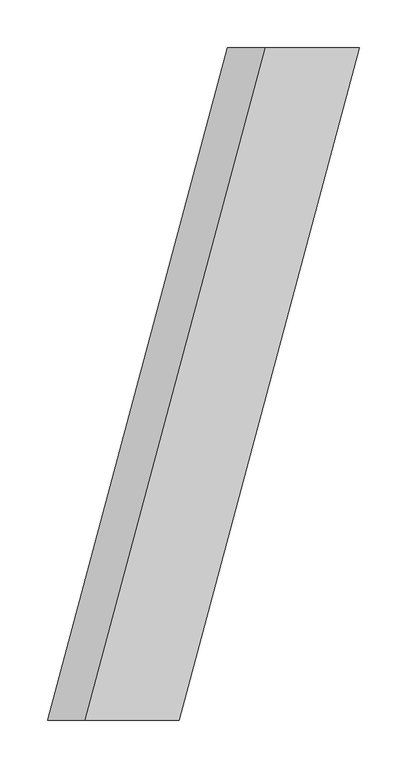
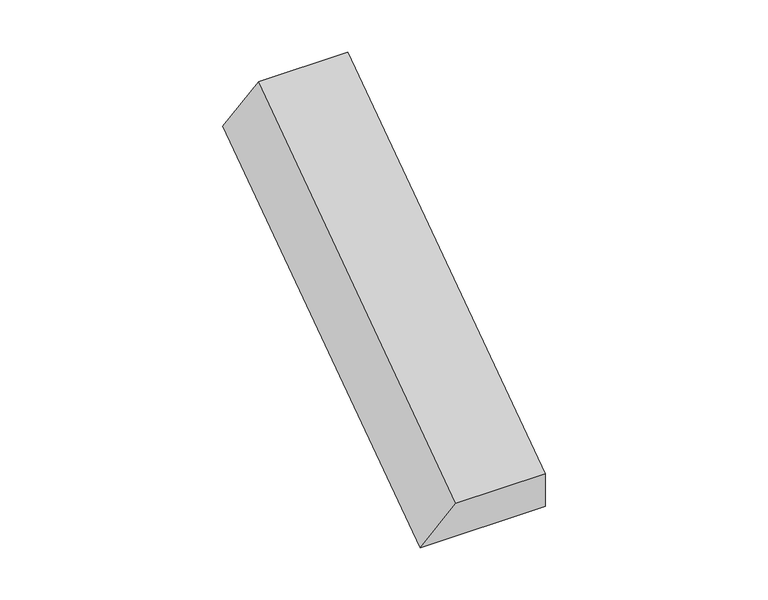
"""IFC4 building model written with IfcOpenShell, lengths in millimetres: proxy geometry, FOUNDATION^TABLE 5_60x180 LT END BASE-LEFT END."""

from ifc_helpers import new_model, si_unit, origin, place, context, project, spatial, faceted_brep, source, transform, mapped, element, save


def generic_models_fcb6373f(model_context):
    return source(origin(), model_context, "Body", "Brep", [
        faceted_brep([(895.3400904, -704.85, -1066.8), (796.7300342, -704.85, -1066.8), (757.2860117, -704.85, -1104.9), (895.3400904, -704.85, -1104.9), (1084.2040787, 0.0, -1104.9), (1084.2040787, 0.0, -1066.8), (946.15, 0.0, -1104.9), (985.5940225, 0.0, -1066.8)], [[[0, 1, 2, 3]], [[0, 3, 4, 5]], [[3, 2, 6, 4]], [[1, 0, 5, 7]], [[2, 1, 7, 6]], [[7, 5, 4, 6]]]),
    ])


if __name__ == "__main__":
    model = new_model("IFC4")
    model_context = context("Model", 3, world=origin())
    ifc_project = project(units=[si_unit("LENGTHUNIT", "METRE", prefix="MILLI")], contexts=[model_context])
    site = spatial("IfcSite", under=ifc_project)
    building = spatial("IfcBuilding", under=site)
    placement = place(None, origin())
    generic_models_shape = generic_models_fcb6373f(model_context)
    element("IfcBuildingElementProxy", 1, Name="FOUNDATION^TABLE 5_60x180 LT END BASE-LEFT END", ObjectType="FOUNDATION^TABLE 5_60x180 LT END BASE-LEFT END", at=placement, inside=building, context=model_context, shape_type="MappedRepresentation", body=[
        mapped(generic_models_shape, transform((0.0, 0.0, 0.0), x_axis=(1.0, 0.0, 0.0), y_axis=(0.0, 1.0, 0.0), z_axis=(0.0, 0.0, 1.0))),
    ])
    save(model, "model.ifc")
